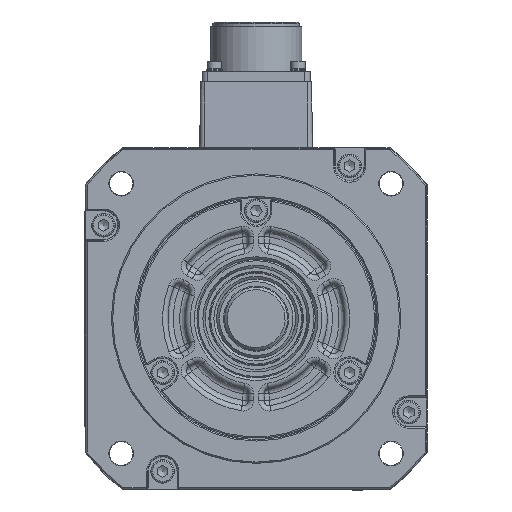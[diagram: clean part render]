
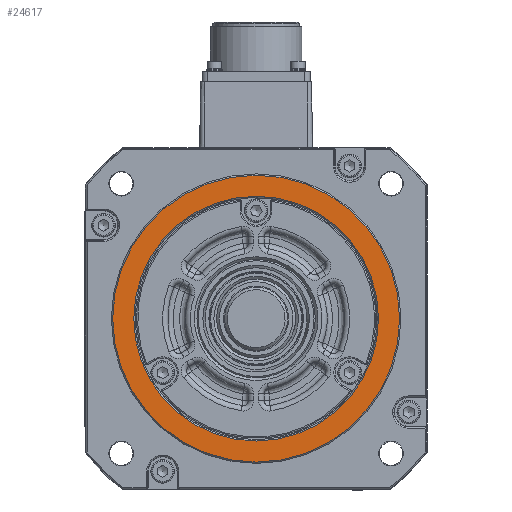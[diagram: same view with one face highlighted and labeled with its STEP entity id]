
A CAD part, front view. The second image highlights one B-rep face of the part: STEP entity #24617.
In plain terms, the highlighted planar face has unit normal (0, -1, 0).
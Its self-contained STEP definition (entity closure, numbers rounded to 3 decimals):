
#3637=CARTESIAN_POINT('',(54.5,-139.0,0.));
#3638=VERTEX_POINT('',#3637);
#3639=CARTESIAN_POINT('',(0.,-139.0,0.));
#3640=DIRECTION('',(0.0,1.0,0.0));
#3641=DIRECTION('',(-1.0,0.0,0.0));
#3642=AXIS2_PLACEMENT_3D('',#3639,#3640,#3641);
#3643=CIRCLE('',#3642,54.5);
#3644=EDGE_CURVE('',#3638,#3638,#3643,.T.);
#3685=CARTESIAN_POINT('',(46.5,-139.0,0.));
#3686=VERTEX_POINT('',#3685);
#3687=CARTESIAN_POINT('',(0.,-139.0,0.));
#3688=DIRECTION('',(0.0,-1.0,0.0));
#3689=DIRECTION('',(-1.0,0.0,0.0));
#3690=AXIS2_PLACEMENT_3D('',#3687,#3688,#3689);
#3691=CIRCLE('',#3690,46.5);
#3692=EDGE_CURVE('',#3686,#3686,#3691,.T.);
#24606=CARTESIAN_POINT('',(0.,-139.0,0.));
#24607=DIRECTION('',(0.0,-1.0,0.0));
#24608=DIRECTION('',(0.0,0.0,-1.0));
#24609=AXIS2_PLACEMENT_3D('',#24606,#24607,#24608);
#24610=PLANE('',#24609);
#24611=ORIENTED_EDGE('',*,*,#3644,.F.);
#24612=EDGE_LOOP('',(#24611));
#24613=FACE_OUTER_BOUND('',#24612,.T.);
#24614=ORIENTED_EDGE('',*,*,#3692,.F.);
#24615=EDGE_LOOP('',(#24614));
#24616=FACE_BOUND('',#24615,.T.);
#24617=ADVANCED_FACE('',(#24613,#24616),#24610,.T.);
